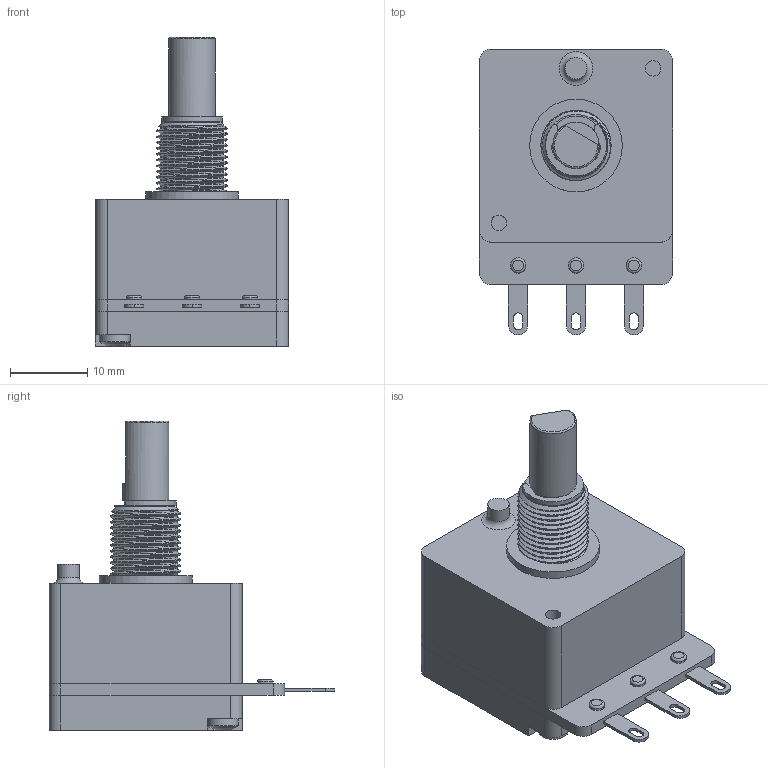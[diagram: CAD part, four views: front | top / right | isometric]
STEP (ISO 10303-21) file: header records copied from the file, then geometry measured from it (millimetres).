
FILE_DESCRIPTION(('FreeCAD Model'),'2;1');
FILE_NAME('Open CASCADE Shape Model','2024-02-26T16:14:57',(''),(''), 'Open CASCADE STEP processor 7.6','FreeCAD','Unknown');
FILE_SCHEMA(('AUTOMOTIVE_DESIGN { 1 0 10303 214 1 1 1 1 }'));
Length unit declared in the file: millimetre
Products named in the file (1): cp25xx-f20
Bounding box: 25 x 37 x 40.07 mm (x, y, z)
Volume: 12874.5 mm3; surface area: 4511 mm2
Topology: 1 solids, 6 shells, 243 faces, 586 edges, 359 vertices
Faces by surface type: plane 111, cylinder 72, bspline 38, cone 12, torus 6, sphere 2, revolution 2
Full cylindrical faces by diameter (mm): 1.9 x2, 2 x9, 2.2 x2, 2.8 x1, 4.5 x1, 5.4 x1, 6 x1, 6.05 x1, 8 x1, 9.09 x11, 12 x1
Entity records: 24134 total; most frequent: CARTESIAN_POINT 12622, DIRECTION 1897, ORIENTED_EDGE 1166, PCURVE 1166, DEFINITIONAL_REPRESENTATION 1166, LINE 864, VECTOR 864, EDGE_CURVE 583
